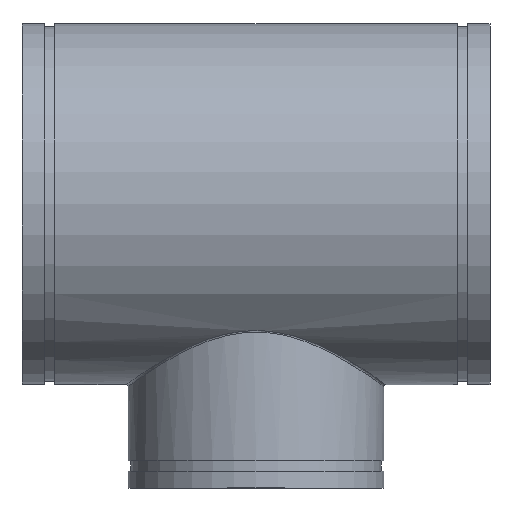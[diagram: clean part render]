
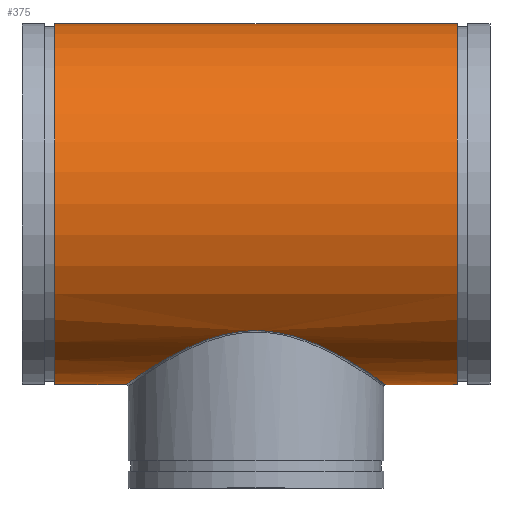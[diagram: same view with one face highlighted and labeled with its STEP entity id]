
A CAD part, top view. The second image highlights one B-rep face of the part: STEP entity #375.
In plain terms, the highlighted cylindrical face has radius 274.32 mm (diameter 548.64 mm), a full revolution.
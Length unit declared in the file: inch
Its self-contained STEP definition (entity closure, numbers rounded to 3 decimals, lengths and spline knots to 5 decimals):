
#54=FACE_BOUND('',#119,.T.);
#65=LINE('',#889,#76);
#76=VECTOR('',#483,10.8);
#87=CYLINDRICAL_SURFACE('',#415,10.8);
#98=FACE_OUTER_BOUND('',#118,.T.);
#118=EDGE_LOOP('',(#266,#267,#268,#269));
#119=EDGE_LOOP('',(#270));
#150=B_SPLINE_CURVE_WITH_KNOTS('',3,(#847,#848,#849,#850,#851,#852,#853,
#854,#855,#856,#857,#858,#859,#860,#861,#862,#863,#864,#865,#866,#867,#868,
#869,#870,#871,#872,#873,#874,#875,#876,#877,#878,#879,#880,#881,#882,#883,
#884),.UNSPECIFIED.,.T.,.F.,(4,1,1,1,1,1,1,1,1,1,1,1,1,1,1,1,1,1,1,1,1,
1,1,1,1,1,1,1,1,1,1,1,1,1,1,4),(-122.87596,-120.68174,-118.48753,
-114.0991,-109.71068,-105.32225,-99.47101,
-96.5454,-93.61978,-90.69416,-87.76854,
-84.84292,-81.91731,-76.06607,-70.21483,
-67.28922,-64.3636,-61.43798,-58.51236,
-55.58674,-52.66112,-49.73551,-46.80989,
-40.95865,-38.03303,-35.10742,-32.1818,
-29.25618,-26.33056,-23.40494,-17.55371,
-13.16528,-8.77685,-4.38843,-2.19421,
0.),.UNSPECIFIED.);
#154=CIRCLE('',#416,10.8);
#155=CIRCLE('',#417,10.8);
#182=VERTEX_POINT('',#801);
#185=VERTEX_POINT('',#886);
#186=VERTEX_POINT('',#888);
#219=EDGE_CURVE('',#182,#182,#150,.T.);
#220=EDGE_CURVE('',#185,#185,#154,.T.);
#221=EDGE_CURVE('',#185,#186,#65,.T.);
#222=EDGE_CURVE('',#186,#186,#155,.T.);
#266=ORIENTED_EDGE('',*,*,#220,.T.);
#267=ORIENTED_EDGE('',*,*,#221,.T.);
#268=ORIENTED_EDGE('',*,*,#222,.T.);
#269=ORIENTED_EDGE('',*,*,#221,.F.);
#270=ORIENTED_EDGE('',*,*,#219,.F.);
#375=ADVANCED_FACE('',(#98,#54),#87,.T.);
#415=AXIS2_PLACEMENT_3D('',#885,#479,#480);
#416=AXIS2_PLACEMENT_3D('',#887,#481,#482);
#417=AXIS2_PLACEMENT_3D('',#890,#484,#485);
#479=DIRECTION('center_axis',(-1.,0.,0.));
#480=DIRECTION('ref_axis',(0.,-1.,0.));
#481=DIRECTION('center_axis',(1.,0.,0.));
#482=DIRECTION('ref_axis',(0.,-1.,0.));
#483=DIRECTION('',(1.,0.,0.));
#484=DIRECTION('center_axis',(-1.,0.,0.));
#485=DIRECTION('ref_axis',(0.,-1.,0.));
#801=CARTESIAN_POINT('',(0.00109,-7.58715,-7.68604));
#847=CARTESIAN_POINT('Ctrl Pts',(0.00109,-7.58715,-7.68604));
#848=CARTESIAN_POINT('Ctrl Pts',(0.30419,-7.58719,-7.686));
#849=CARTESIAN_POINT('Ctrl Pts',(0.91008,-7.62318,-7.65076));
#850=CARTESIAN_POINT('Ctrl Pts',(2.0907,-7.82839,-7.44366));
#851=CARTESIAN_POINT('Ctrl Pts',(3.45916,-8.28418,-6.95229));
#852=CARTESIAN_POINT('Ctrl Pts',(4.88519,-8.97197,-6.05506));
#853=CARTESIAN_POINT('Ctrl Pts',(6.21634,-9.74744,-4.75372));
#854=CARTESIAN_POINT('Ctrl Pts',(7.10929,-10.339,-3.27771));
#855=CARTESIAN_POINT('Ctrl Pts',(7.59476,-10.67325,-1.78274));
#856=CARTESIAN_POINT('Ctrl Pts',(7.78281,-10.80557,-0.60115));
#857=CARTESIAN_POINT('Ctrl Pts',(7.78285,-10.80545,0.60311));
#858=CARTESIAN_POINT('Ctrl Pts',(7.59399,-10.6729,1.78512));
#859=CARTESIAN_POINT('Ctrl Pts',(7.23037,-10.42206,2.90508));
#860=CARTESIAN_POINT('Ctrl Pts',(6.53749,-9.9598,4.2803));
#861=CARTESIAN_POINT('Ctrl Pts',(5.33977,-9.212,5.73054));
#862=CARTESIAN_POINT('Ctrl Pts',(3.79393,-8.42365,6.78178));
#863=CARTESIAN_POINT('Ctrl Pts',(2.36702,-7.91624,7.35177));
#864=CARTESIAN_POINT('Ctrl Pts',(1.21118,-7.65166,7.62313));
#865=CARTESIAN_POINT('Ctrl Pts',(-0.00113,-7.5547,
7.71762));
#866=CARTESIAN_POINT('Ctrl Pts',(-1.21324,-7.65186,7.62293));
#867=CARTESIAN_POINT('Ctrl Pts',(-2.3691,-7.91709,7.35087));
#868=CARTESIAN_POINT('Ctrl Pts',(-3.43885,-8.29703,6.92393));
#869=CARTESIAN_POINT('Ctrl Pts',(-4.41399,-8.74039,6.35962));
#870=CARTESIAN_POINT('Ctrl Pts',(-5.58058,-9.36174,5.43973));
#871=CARTESIAN_POINT('Ctrl Pts',(-6.53872,-9.96087,4.27827));
#872=CARTESIAN_POINT('Ctrl Pts',(-7.23109,-10.42244,2.90334));
#873=CARTESIAN_POINT('Ctrl Pts',(-7.59451,-10.67332,1.78301));
#874=CARTESIAN_POINT('Ctrl Pts',(-7.78298,-10.80553,0.60105));
#875=CARTESIAN_POINT('Ctrl Pts',(-7.78267,-10.80548,-0.60324));
#876=CARTESIAN_POINT('Ctrl Pts',(-7.59425,-10.6729,-1.78479));
#877=CARTESIAN_POINT('Ctrl Pts',(-7.10845,-10.33841,-3.27949));
#878=CARTESIAN_POINT('Ctrl Pts',(-6.21509,-9.74663,-4.75529));
#879=CARTESIAN_POINT('Ctrl Pts',(-4.88366,-8.97115,-6.05627));
#880=CARTESIAN_POINT('Ctrl Pts',(-3.45741,-8.28344,-6.95314));
#881=CARTESIAN_POINT('Ctrl Pts',(-2.08863,-7.82783,-7.44424));
#882=CARTESIAN_POINT('Ctrl Pts',(-0.90793,-7.62293,-7.65101));
#883=CARTESIAN_POINT('Ctrl Pts',(-0.30201,-7.5871,-7.68608));
#884=CARTESIAN_POINT('Ctrl Pts',(0.00109,-7.58715,-7.68604));
#885=CARTESIAN_POINT('Origin',(14.,0.,0.));
#886=CARTESIAN_POINT('',(-12.035,10.8,0.));
#887=CARTESIAN_POINT('Origin',(-12.035,0.,0.));
#888=CARTESIAN_POINT('',(12.035,10.8,0.));
#889=CARTESIAN_POINT('',(14.,10.8,0.));
#890=CARTESIAN_POINT('Origin',(12.035,0.,0.));
